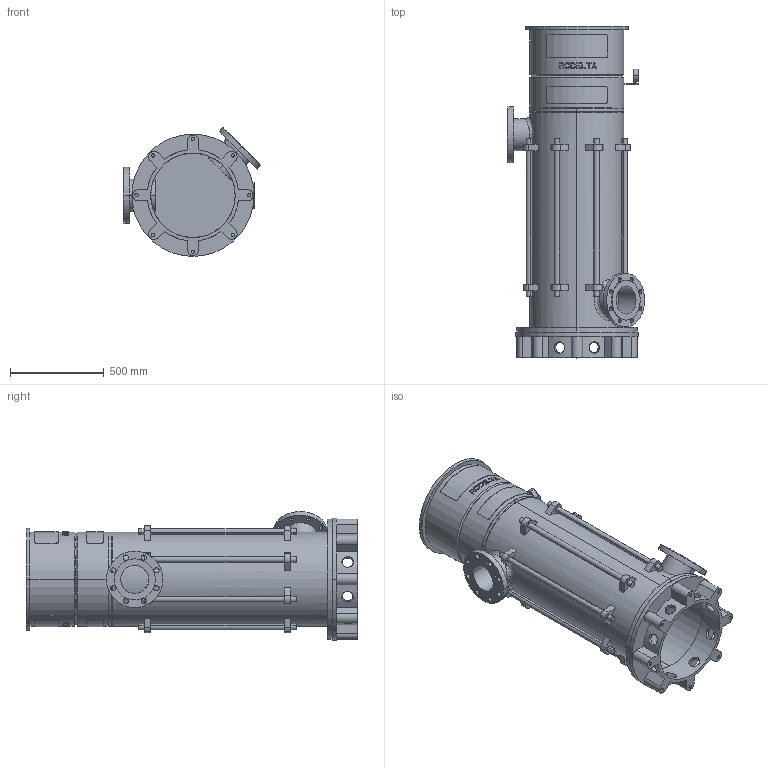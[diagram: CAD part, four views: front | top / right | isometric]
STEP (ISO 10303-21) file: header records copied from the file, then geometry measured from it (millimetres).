
FILE_DESCRIPTION((''),'2;1');
FILE_NAME('LS6_5TR_0GR_PN25_ABOVE_30KW','2025-10-24T10:45:26',('Lyritlocal'),(''),'CREO PARAMETRIC BY PTC INC, 2022014','CREO PARAMETRIC BY PTC INC, 2022014','');
FILE_SCHEMA(('CONFIG_CONTROL_DESIGN'));
Length unit declared in the file: millimetre
Products named in the file (1): LS6_5TR_0GR_PN25_ABOVE_30KW
Bounding box: 730.27 x 1765 x 685.27 mm (x, y, z)
Volume: 57089201.5 mm3; surface area: 7979077.6 mm2
Topology: 3 solids, 11 shells, 732 faces, 1889 edges, 1258 vertices
Faces by surface type: plane 438, cylinder 274, cone 12, bspline 8
Entity records: 24204 total; most frequent: CARTESIAN_POINT 6384, ORIENTED_EDGE 3746, DIRECTION 3535, EDGE_CURVE 1889, AXIS2_PLACEMENT_3D 1341, VERTEX_POINT 1258, EDGE_LOOP 895, VECTOR 853
